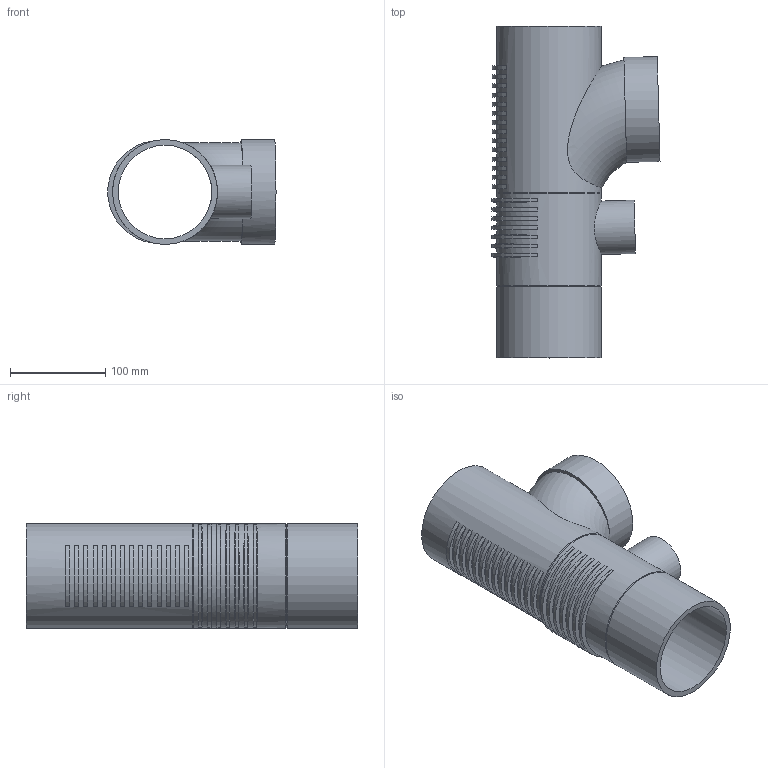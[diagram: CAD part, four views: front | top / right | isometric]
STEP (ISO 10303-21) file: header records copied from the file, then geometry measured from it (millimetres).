
FILE_DESCRIPTION(/* description */ (''),/* implementation_level */ '2;1');
FILE_NAME(/* name */ 'Z:\Geberit\Export\NewStep\310813.stp',/* time_stamp */ '2014-04-01T20:08:35+02:00',/* author */ ('ML'),/* organization */ (''),/* preprocessor_version */ 'ST-DEVELOPER v15.2',/* originating_system */ 'Autodesk Inventor 2014',/* authorisation */ '');
FILE_SCHEMA (('AUTOMOTIVE_DESIGN { 1 0 10303 214 3 1 1 }'));
Length unit declared in the file: millimetre
Products named in the file (5): 310058; 861734; 310108; 861645; 310813
Bounding box: 176.2 x 348 x 110 mm (x, y, z)
Volume: 818047.4 mm3; surface area: 294094.3 mm2
Topology: 2 solids, 2 shells, 84 faces, 190 edges, 131 vertices
Faces by surface type: plane 36, cylinder 30, cone 16, torus 2
Full cylindrical faces by diameter (mm): 49.6 x1, 56 x1, 98 x3, 110 x4
Entity records: 3171 total; most frequent: CARTESIAN_POINT 1218, DIRECTION 402, ORIENTED_EDGE 328, AXIS2_PLACEMENT_3D 180, EDGE_CURVE 164, EDGE_LOOP 129, VERTEX_POINT 121, CIRCLE 87
